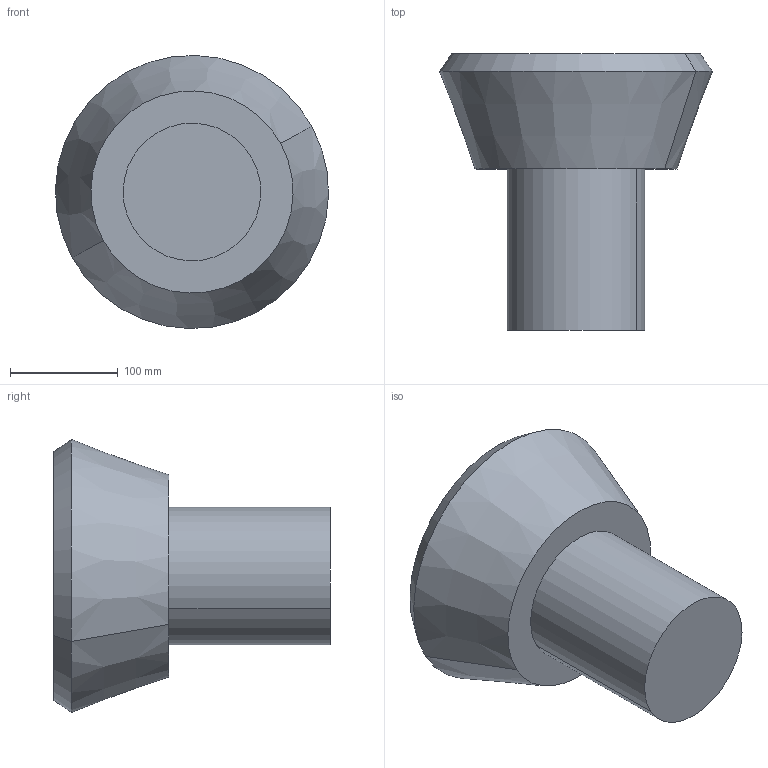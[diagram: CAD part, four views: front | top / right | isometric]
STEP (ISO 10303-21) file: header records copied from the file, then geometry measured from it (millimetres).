
FILE_DESCRIPTION(('CATIA V5 STEP Exchange'),'2;1');
FILE_NAME('C:\_Andres\UNIVERSIDAD\IQS\ASIGNATURAS\DAO\EXF\EXF-15161c\1original\Casals_Vilar_Ej09-optimiza_v4.stp','2016-03-04T21:55:27+00:00',('none'),('none'),'CATIA Version 5 Release 20 SP 1 (IN-10)','CATIA V5 STEP AP203','none');
FILE_SCHEMA(('CONFIG_CONTROL_DESIGN'));
Length unit declared in the file: millimetre
Products named in the file (1): Casals_Vilar_Ej09-optimiza_v4
Bounding box: 253.98 x 257.12 x 253.98 mm (x, y, z)
Volume: 6176702.8 mm3; surface area: 216721 mm2
Topology: 1 solids, 2 shells, 13 faces, 22 edges, 14 vertices
Faces by surface type: plane 5, cylinder 4, cone 4
Entity records: 324 total; most frequent: CARTESIAN_POINT 47, ORIENTED_EDGE 44, DIRECTION 42, AXIS2_PLACEMENT_3D 25, EDGE_CURVE 22, CIRCLE 14, EDGE_LOOP 14, VERTEX_POINT 14
